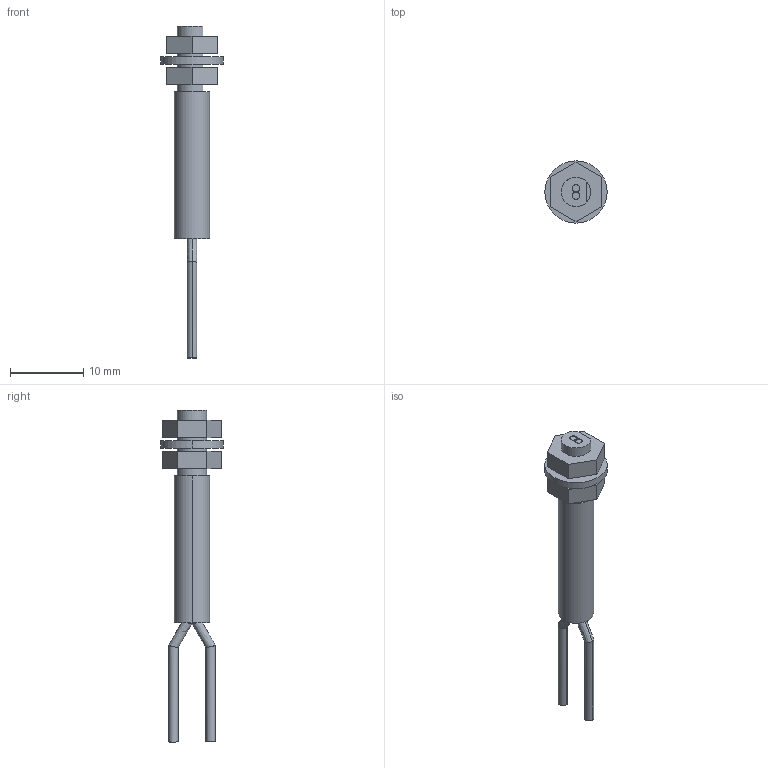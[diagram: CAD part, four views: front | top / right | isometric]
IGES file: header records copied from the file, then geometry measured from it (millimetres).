
Start section: SolidWorks IGES FILE using analytic representation for surfaces
Global section: file name: C:\Documents and Settings\yk0651\デスクトップ\3D_catalog_050904\0_IGES\FD-WT8.IGS; native system: SolidWorks 2004 by SolidWorks Corporation; preprocessor: Version 5.3; author: yk0651; date: 050904.193042; units: millimetre
Bounding box: 8.5 x 8.5 x 45.28 mm (x, y, z)
Volume: 698.8 mm3; surface area: 1010 mm2
Topology: 4 solids, 4 shells, 51 faces, 110 edges, 72 vertices
Faces by surface type: plane 26, revolution 25
